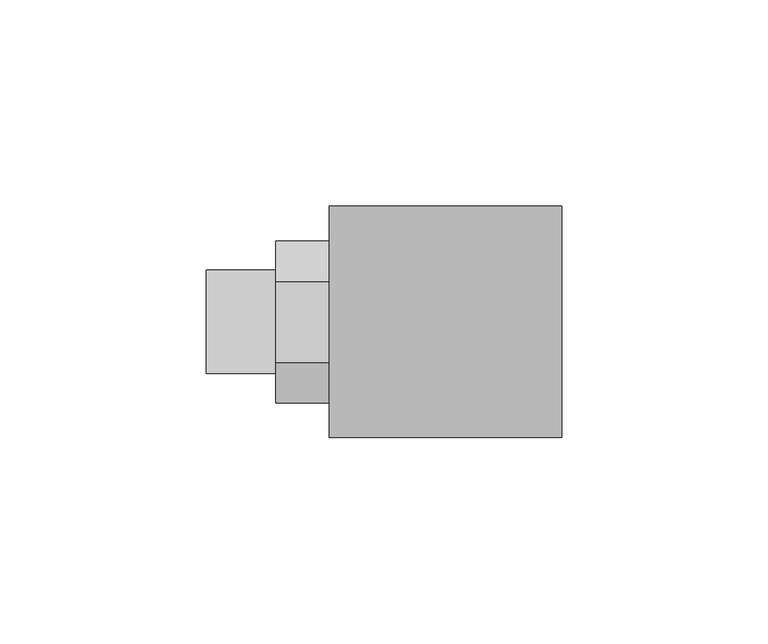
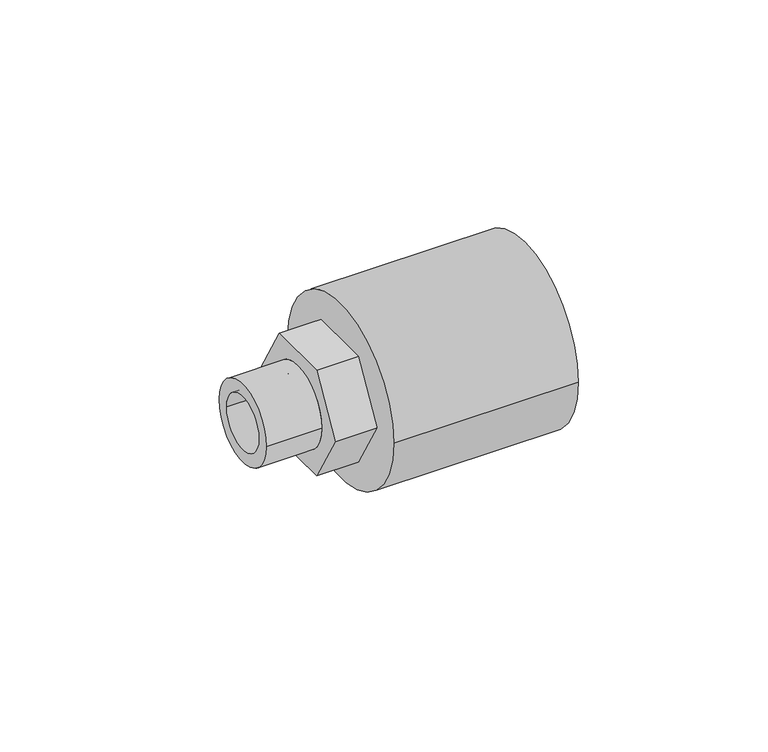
"""IFC4 building model written with IfcOpenShell, lengths in millimetres: pipe fitting geometry, NIRON RED termofusion roscado enlace rosca macho hexagonal : Estándar."""

from ifc_helpers import new_model, si_unit, point, frame, origin, origin_2d, place, context, project, spatial, polyline, circle_curve, trimmed, segment, composite_curve, outline, extrude, source, transform, mapped, element, save
from ifc_brep_helpers import plane_surface, cylinder_surface, revolved_surface, advanced_brep


def pipe_fitting_3affc267(model_context):
    return source(origin(), model_context, "Body", "SolidModel", [
        extrude(outline(composite_curve([segment(trimmed(circle_curve(origin_2d(), 12.5), [point((-12.5, 0.0))], [point((12.5, 0.0))], False, "CARTESIAN"), True, "CONTINUOUS"), segment(trimmed(circle_curve(origin_2d(), 12.5), [point((12.5, 0.0))], [point((-12.5, 0.0))], False, "CARTESIAN"), True, "CONTINUOUS")], self_intersect=False), holes=[composite_curve([segment(trimmed(circle_curve(origin_2d(), 8.5), [point((-8.5, 0.0))], [point((8.5, 0.0))], True, "CARTESIAN"), True, "CONTINUOUS"), segment(trimmed(circle_curve(origin_2d(), 8.5), [point((8.5, 0.0))], [point((-8.5, 0.0))], True, "CARTESIAN"), True, "CONTINUOUS")], self_intersect=False)]), frame((-16.8, 0.0, 0.0), z_axis=(1.0, 0.0, 0.0), x_axis=(0.0, 1.0, 0.0)), (0.0, 0.0, 1.0), 16.8),
        advanced_brep(
        [(69.2, 28.0, 0.0), (69.2, -28.0, 0.0), (13.0, 28.0, 0.0), (13.0, -28.0, 0.0), (13.0, -12.5, 0.0), (13.0, 12.5, 0.0), (23.7, 12.5, 0.0), (23.7, -12.5, 0.0)],
        [
            (0, 1, circle_curve(frame((69.2, 0.0, 0.0), z_axis=(1.0, 0.0, 0.0), x_axis=(0.0, -1.0, 0.0)), 28.0)),
            (1, 0, circle_curve(frame((69.2, 0.0, 0.0), z_axis=(1.0, 0.0, 0.0), x_axis=(0.0, -1.0, 0.0)), 28.0)),
            (2, 3, circle_curve(frame((13.0, 0.0, 0.0), z_axis=(-1.0, 0.0, 0.0), x_axis=(0.0, -1.0, 0.0)), 28.0)),
            (3, 2, circle_curve(frame((13.0, 0.0, 0.0), z_axis=(-1.0, 0.0, 0.0), x_axis=(0.0, -1.0, 0.0)), 28.0)),
            (4, 5, circle_curve(frame((13.0, 0.0, 0.0), z_axis=(1.0, 0.0, 0.0), x_axis=(0.0, -1.0, 0.0)), 12.5)),
            (5, 4, circle_curve(frame((13.0, 0.0, 0.0), z_axis=(1.0, 0.0, 0.0), x_axis=(0.0, -1.0, 0.0)), 12.5)),
            (1, 3),
            (2, 0),
            (6, 7, circle_curve(frame((23.7, 0.0, 0.0), z_axis=(-1.0, 0.0, 0.0), x_axis=(0.0, -1.0, 0.0)), 12.5)),
            (7, 6, circle_curve(frame((23.7, 0.0, 0.0), z_axis=(-1.0, 0.0, 0.0), x_axis=(0.0, -1.0, 0.0)), 12.5)),
            (6, 5),
            (4, 7),
        ],
        [
            plane_surface(frame((69.2, -28.0, 0.0), z_axis=(1.0, 0.0, 0.0), x_axis=(0.0, 0.0, -1.0))),
            plane_surface(frame((13.0, -28.0, 0.0), z_axis=(-1.0, 0.0, 0.0), x_axis=(0.0, 0.0, 1.0))),
            cylinder_surface(frame((69.2, 0.0, 0.0), z_axis=(-1.0, 0.0, 0.0), x_axis=(0.0, -1.0, 0.0)), 28.0),
            plane_surface(frame((23.7, -12.5, 0.0), z_axis=(-1.0, 0.0, 0.0), x_axis=(0.0, 0.0, -1.0))),
            revolved_surface(polyline([(13.0, -12.5, 0.0), (23.7, -12.5, 0.0)]), (23.7, 0.0, 0.0), (-1.0, 0.0, 0.0)),
        ],
        [
            (0, [[1, 2]]),
            (1, [[3, 4], [5, 6]]),
            (2, [[-2, 7, -3, 8]]),
            (2, [[-1, -8, -4, -7]]),
            (3, [[9, 10]]),
            (4, [[-9, 11, -5, 12]]),
            (4, [[-10, -12, -6, -11]]),
        ],
    ),
        advanced_brep(
        [(45.0, -9.8149546, -17.0), (45.0, 9.8149546, -17.0), (45.0, 19.6299092, 0.0), (45.0, 9.8149546, 17.0), (45.0, -9.8149546, 17.0), (45.0, -19.6299092, 0.0), (0.0, -9.8149546, -17.0), (0.0, -19.6299092, 0.0), (0.0, -9.8149546, 17.0), (0.0, 9.8149546, 17.0), (0.0, 19.6299092, 0.0), (0.0, 9.8149546, -17.0), (0.0, -12.5, 0.0), (0.0, 12.5, 0.0), (23.7, 12.5, 0.0), (23.7, -12.5, 0.0)],
        [
            (0, 1),
            (1, 2),
            (2, 3),
            (3, 4),
            (4, 5),
            (5, 0),
            (6, 7),
            (7, 8),
            (8, 9),
            (9, 10),
            (10, 11),
            (11, 6),
            (12, 13, circle_curve(frame((0.0, 0.0, 0.0), z_axis=(1.0, 0.0, 0.0), x_axis=(0.0, -1.0, 0.0)), 12.5)),
            (13, 12, circle_curve(frame((0.0, 0.0, 0.0), z_axis=(1.0, 0.0, 0.0), x_axis=(0.0, -1.0, 0.0)), 12.5)),
            (0, 6),
            (11, 1),
            (10, 2),
            (9, 3),
            (8, 4),
            (7, 5),
            (14, 15, circle_curve(frame((23.7, 0.0, 0.0), z_axis=(-1.0, 0.0, 0.0), x_axis=(0.0, -1.0, 0.0)), 12.5)),
            (15, 14, circle_curve(frame((23.7, 0.0, 0.0), z_axis=(-1.0, 0.0, 0.0), x_axis=(0.0, -1.0, 0.0)), 12.5)),
            (14, 13),
            (12, 15),
        ],
        [
            plane_surface(frame((45.0, 0.0, 0.0), z_axis=(1.0, 0.0, 0.0), x_axis=(0.0, 0.0, 1.0))),
            plane_surface(frame((0.0, 0.0, 0.0), z_axis=(-1.0, 0.0, 0.0), x_axis=(0.0, 0.0, 1.0))),
            plane_surface(frame((45.0, -9.8149546, -17.0), z_axis=(0.0, 0.0, -1.0), x_axis=(-1.0, 0.0, 0.0))),
            plane_surface(frame((45.0, 9.8149546, -17.0), z_axis=(0.0, 0.8660254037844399, -0.49999999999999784), x_axis=(-1.0, 0.0, 0.0))),
            plane_surface(frame((45.0, 19.6299092, 0.0), z_axis=(0.0, 0.8660254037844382, 0.500000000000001), x_axis=(-1.0, 0.0, 0.0))),
            plane_surface(frame((45.0, 9.8149546, 17.0), z_axis=(0.0, 0.0, 1.0), x_axis=(-1.0, 0.0, 0.0))),
            plane_surface(frame((45.0, -9.8149546, 17.0), z_axis=(0.0, -0.8660254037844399, 0.4999999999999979), x_axis=(-1.0, 0.0, 0.0))),
            plane_surface(frame((45.0, -19.6299092, 0.0), z_axis=(0.0, -0.8660254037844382, -0.5000000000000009), x_axis=(-1.0, 0.0, 0.0))),
            plane_surface(frame((23.7, -12.5, 0.0), z_axis=(-1.0, 0.0, 0.0), x_axis=(0.0, 0.0, -1.0))),
            revolved_surface(polyline([(0.0, -12.5, 0.0), (23.7, -12.5, 0.0)]), (23.7, 0.0, 0.0), (-1.0, 0.0, 0.0)),
        ],
        [
            (0, [[1, 2, 3, 4, 5, 6]]),
            (1, [[7, 8, 9, 10, 11, 12], [13, 14]]),
            (2, [[-1, 15, -12, 16]]),
            (3, [[-2, -16, -11, 17]]),
            (4, [[-3, -17, -10, 18]]),
            (5, [[-4, -18, -9, 19]]),
            (6, [[-5, -19, -8, 20]]),
            (7, [[-6, -20, -7, -15]]),
            (8, [[21, 22]]),
            (9, [[-21, 23, -13, 24]]),
            (9, [[-22, -24, -14, -23]]),
        ],
    ),
    ])


if __name__ == "__main__":
    model = new_model("IFC4")
    model_context = context("Model", 3, world=origin())
    ifc_project = project(units=[si_unit("LENGTHUNIT", "METRE", prefix="MILLI")], contexts=[model_context])
    site = spatial("IfcSite", under=ifc_project)
    building = spatial("IfcBuilding", under=site)
    placement = place(None, origin())
    pipe_fitting_shape = pipe_fitting_3affc267(model_context)
    element("IfcPipeFitting", 1, ObjectType="NIRON RED termofusion roscado enlace rosca macho hexagonal : Estándar", at=placement, inside=building, context=model_context, shape_type="MappedRepresentation", body=[
        mapped(pipe_fitting_shape, transform((0.0, 0.0, 0.0), x_axis=(1.0, 0.0, 0.0), y_axis=(0.0, 1.0, 0.0), z_axis=(0.0, 0.0, 1.0))),
    ])
    save(model, "model.ifc")
